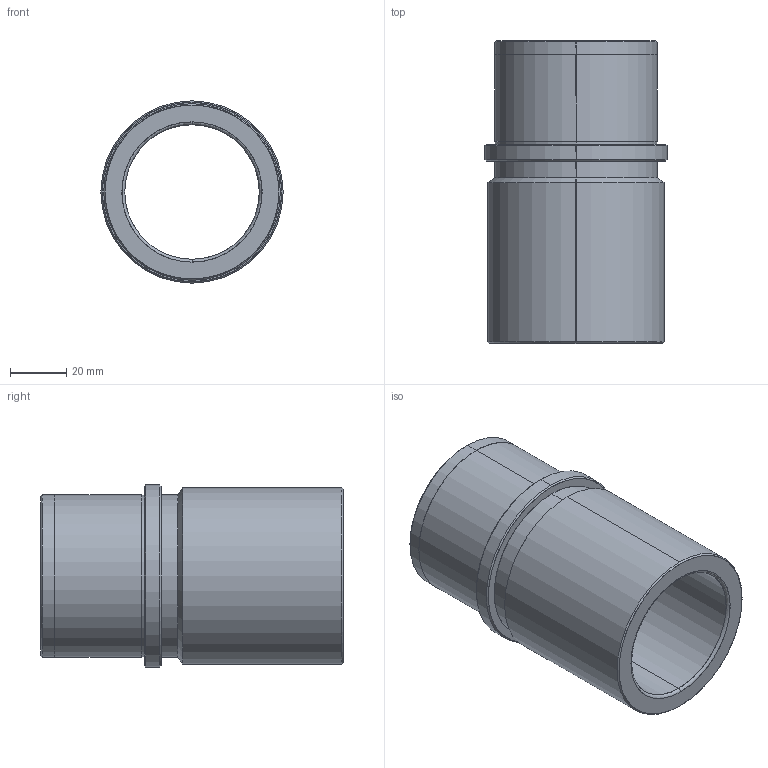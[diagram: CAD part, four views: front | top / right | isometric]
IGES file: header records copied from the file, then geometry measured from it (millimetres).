
Start section: SolidWorks IGES file using analytic representation for surfaces
Global section: file name: C:\Users\User\Desktop\D28_40x108x37 Yeni.IGS; native system: SolidWorks 2013; preprocessor: SolidWorks 2013; author: User; date: 131226.113109; units: millimetre
Bounding box: 65 x 108 x 65 mm (x, y, z)
Surface area: 40479.6 mm2 (no closed solid volume)
Topology: 0 solids, 0 shells, 34 faces, 880 edges, 880 vertices
Faces by surface type: revolution 24, bspline 10
